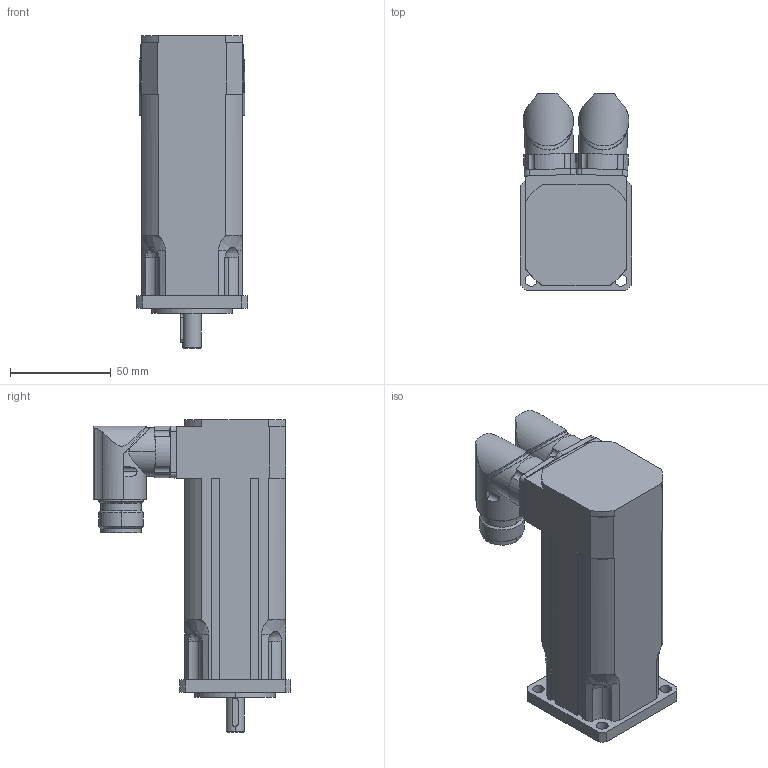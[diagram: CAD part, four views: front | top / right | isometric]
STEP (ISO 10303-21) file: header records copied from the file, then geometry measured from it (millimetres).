
FILE_DESCRIPTION(('STEP AP203'),'2;1');
FILE_NAME('MH2-0070_B.stp','2006-08-29T18:24:27',(''),(''),'2005.2.102','THINKDESIGN','');
FILE_SCHEMA(('CONFIG_CONTROL_DESIGN'));
Length unit declared in the file: millimetre
Bounding box: 55 x 97.7 x 155 mm (x, y, z)
Volume: 378332.3 mm3; surface area: 54009.5 mm2
Topology: 3 solids, 3 shells, 266 faces, 704 edges, 454 vertices
Faces by surface type: cylinder 120, plane 102, bspline 44
Entity records: 10039 total; most frequent: CARTESIAN_POINT 3358, ORIENTED_EDGE 1408, DIRECTION 1378, EDGE_CURVE 704, AXIS2_PLACEMENT_3D 528, VERTEX_POINT 454, VECTOR 322, LINE 322
